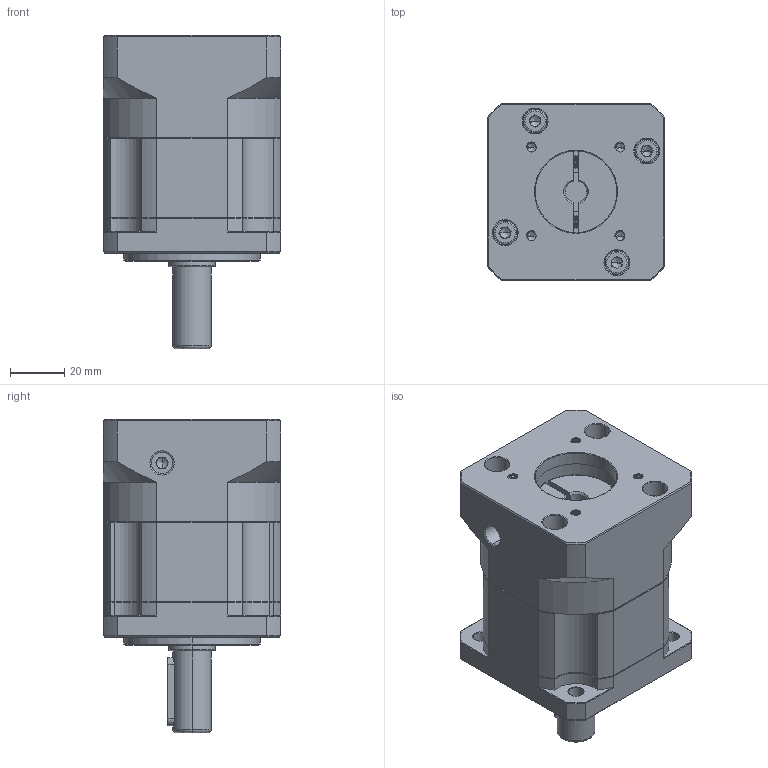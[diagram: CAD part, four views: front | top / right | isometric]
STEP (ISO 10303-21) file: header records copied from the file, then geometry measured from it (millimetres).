
FILE_DESCRIPTION (( 'STEP AP214' ), '1' );
FILE_NAME ('ZB60-D14-L1-8-30-46-M4.STEP', '2022-04-16T15:29:43', ( '' ), ( 'Microsoft' ), 'SwSTEP 2.0', 'SolidWorks 2016', '' );
FILE_SCHEMA (( 'AUTOMOTIVE_DESIGN' ));
Length unit declared in the file: millimetre
Products named in the file (1): ZB60-D14-L1-8-30-46-M4
Bounding box: 65 x 65 x 115 mm (x, y, z)
Volume: 276306.1 mm3; surface area: 54902 mm2
Topology: 6 solids, 6 shells, 1876 faces, 4981 edges, 3188 vertices
Faces by surface type: plane 879, cylinder 381, bspline 299, cone 281, torus 36
Entity records: 98853 total; most frequent: CARTESIAN_POINT 34024, ORIENTED_EDGE 9902, DIRECTION 8109, EDGE_CURVE 4951, VERTEX_POINT 3188, VECTOR 3011, LINE 3011, AXIS2_PLACEMENT_3D 2549
